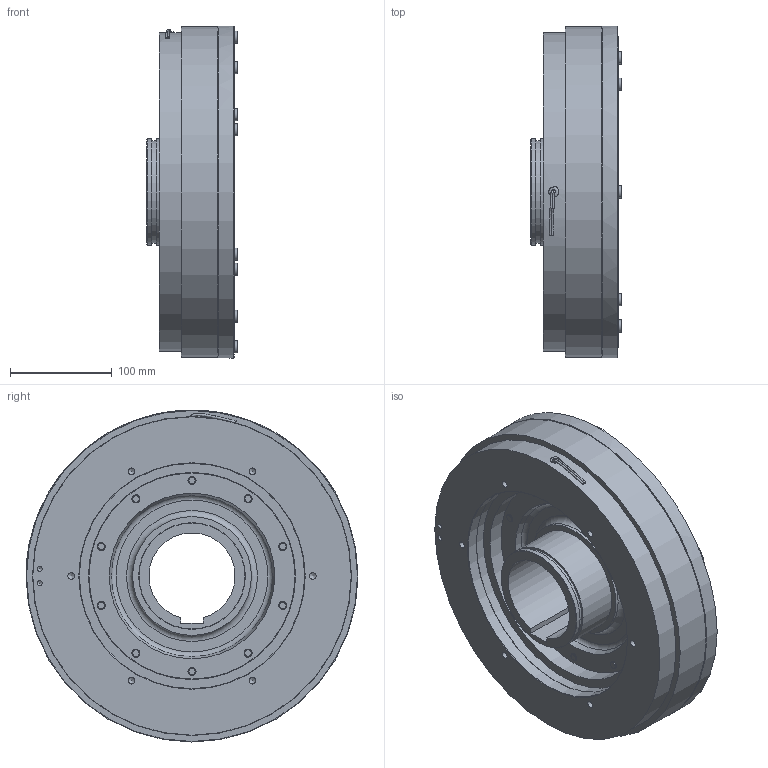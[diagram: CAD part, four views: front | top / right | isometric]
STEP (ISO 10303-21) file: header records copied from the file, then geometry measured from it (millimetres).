
FILE_DESCRIPTION(/* description */ (''),/* implementation_level */ '2;1');
FILE_NAME(/* name */ 'X:\INVENTOR\DISEGNI\08_Freni_Friz_Elettmag_Monodisco\08_26 EMSL_DF\EMSL_DF STEP\08_26_310_21 EMSL310_DF-BM@STEP.stp',/* time_stamp */ '2018-04-24T08:29:59+02:00',/* author */ ('stefano'),/* organization */ (''),/* preprocessor_version */ 'ST-DEVELOPER v17',/* originating_system */ 'Autodesk Inventor 2018',/* authorisation */ '');
FILE_SCHEMA (('AUTOMOTIVE_DESIGN { 1 0 10303 214 3 1 1 }'));
Length unit declared in the file: millimetre
Products named in the file (1): 08_26_310_21 EMSL310_DF-BM_Substitute_1
Bounding box: 89 x 327 x 327 mm (x, y, z)
Volume: 3716071 mm3; surface area: 643478.3 mm2
Topology: 3 solids, 3 shells, 540 faces, 1538 edges, 1068 vertices
Faces by surface type: cylinder 308, plane 149, cone 68, torus 12, bspline 3
Full cylindrical faces by diameter (mm): 3 x12, 4 x1, 4.917 x2, 6.647 x6, 8 x10, 8.1 x12, 10.1 x6, 12 x12, 13 x10, 15 x12, 101 x1, 105 x2, 117 x1, 170 x1, 203 x1, 204 x2, 214 x1, 222 x1, 222.4 x1, 223 x1, 238 x1, 300 x1, 313.6 x1, 314.2 x1, 326 x1, 327 x1
Entity records: 19089 total; most frequent: CARTESIAN_POINT 3777, DIRECTION 3449, ORIENTED_EDGE 3042, EDGE_CURVE 1521, AXIS2_PLACEMENT_3D 1472, VERTEX_POINT 1068, CIRCLE 933, EDGE_LOOP 735
